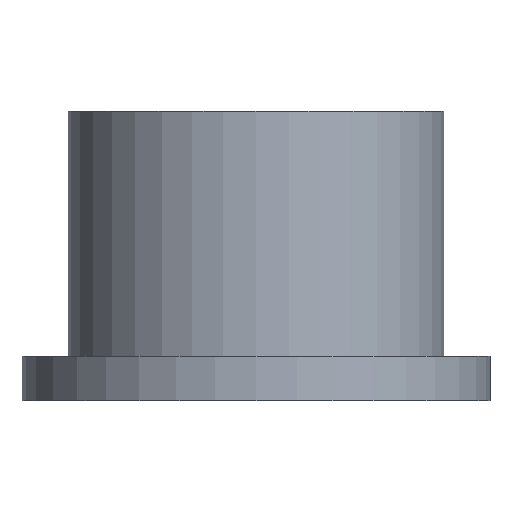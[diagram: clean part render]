
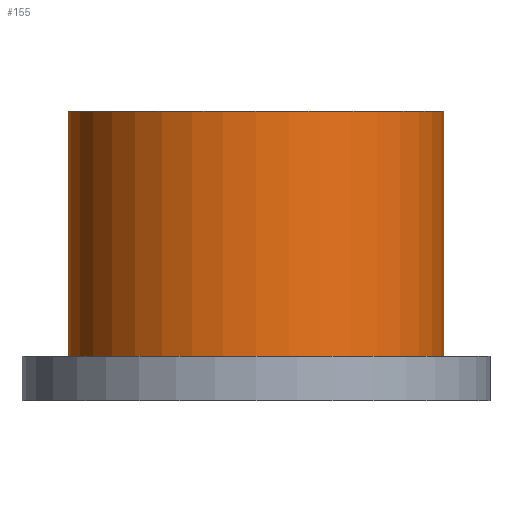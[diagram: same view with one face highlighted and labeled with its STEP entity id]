
A CAD part, front view. The second image highlights one B-rep face of the part: STEP entity #155.
In plain terms, the highlighted cylindrical face has radius 8.427 mm (diameter 16.854 mm), a full revolution.
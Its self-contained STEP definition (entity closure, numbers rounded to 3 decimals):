
#15 = CARTESIAN_POINT ( 'NONE',  ( 0., 0., 13. ) ) ;
#16 = AXIS2_PLACEMENT_3D ( 'NONE', #15, #151, #211 ) ;
#28 = AXIS2_PLACEMENT_3D ( 'NONE', #228, #229, #161 ) ;
#33 = CYLINDRICAL_SURFACE ( 'NONE', #28, 8.427 ) ;
#38 = EDGE_CURVE ( 'NONE', #209, #209, #143, .T. ) ;
#49 = VERTEX_POINT ( 'NONE', #75 ) ;
#65 = AXIS2_PLACEMENT_3D ( 'NONE', #84, #220, #83 ) ;
#75 = CARTESIAN_POINT ( 'NONE',  ( -8.427, 0., 2. ) ) ;
#83 = DIRECTION ( 'NONE',  ( -1., 0., 0. ) ) ;
#84 = CARTESIAN_POINT ( 'NONE',  ( 0., 0., 2. ) ) ;
#85 = FACE_OUTER_BOUND ( 'NONE', #232, .T. ) ;
#97 = CARTESIAN_POINT ( 'NONE',  ( -8.427, 0., 13. ) ) ;
#107 = FACE_OUTER_BOUND ( 'NONE', #116, .T. ) ;
#116 = EDGE_LOOP ( 'NONE', ( #119 ) ) ;
#119 = ORIENTED_EDGE ( 'NONE', *, *, #189, .F. ) ;
#143 = CIRCLE ( 'NONE', #16, 8.427 ) ;
#151 = DIRECTION ( 'NONE',  ( 0., 0., -1. ) ) ;
#155 = ADVANCED_FACE ( 'NONE', ( #85, #107 ), #33, .T. ) ;
#160 = ORIENTED_EDGE ( 'NONE', *, *, #38, .T. ) ;
#161 = DIRECTION ( 'NONE',  ( -1., 0., 0. ) ) ;
#169 = CIRCLE ( 'NONE', #65, 8.427 ) ;
#189 = EDGE_CURVE ( 'NONE', #49, #49, #169, .T. ) ;
#209 = VERTEX_POINT ( 'NONE', #97 ) ;
#211 = DIRECTION ( 'NONE',  ( -1., 0., 0. ) ) ;
#220 = DIRECTION ( 'NONE',  ( 0., 0., -1. ) ) ;
#228 = CARTESIAN_POINT ( 'NONE',  ( 0., 0., 0. ) ) ;
#229 = DIRECTION ( 'NONE',  ( 0., 0., -1. ) ) ;
#232 = EDGE_LOOP ( 'NONE', ( #160 ) ) ;
